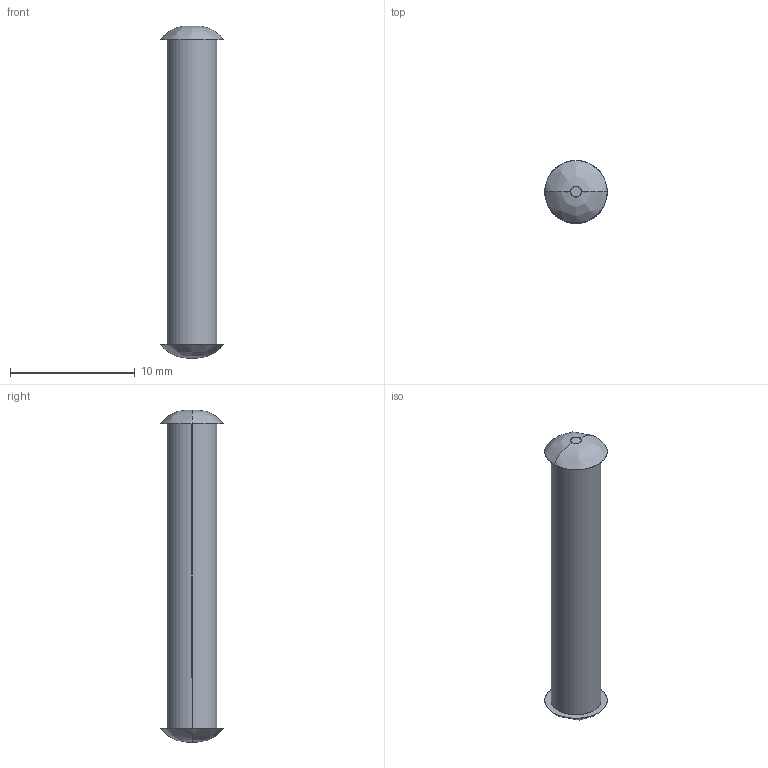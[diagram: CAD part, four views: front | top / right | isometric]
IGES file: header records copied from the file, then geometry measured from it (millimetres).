
Start section: SolidWorks IGES FILE using analytic representation for surfaces
Global section: file name: C:\Documents and Settings\lecoutey\Bureau\GP 29\29.040.10.IGS; native system: SolidWorks 2004 by SolidWorks Corporation; preprocessor: Version 5.3; author: lecoutey; date: 050329.141515; units: millimetre
Bounding box: 5 x 5 x 26.6 mm (x, y, z)
Surface area: 369.6 mm2 (no closed solid volume)
Topology: 0 solids, 0 shells, 10 faces, 184 edges, 184 vertices
Faces by surface type: bspline 8, revolution 2
